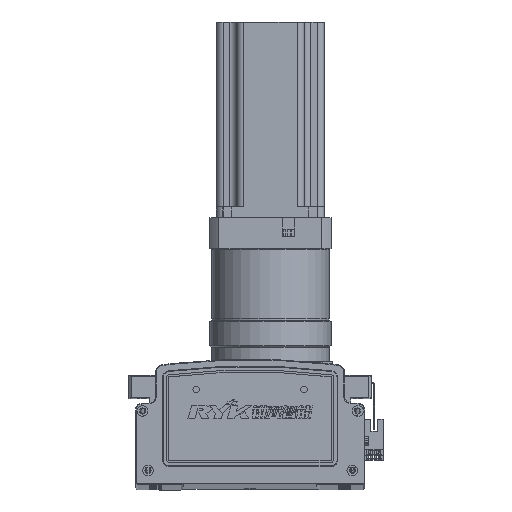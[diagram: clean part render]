
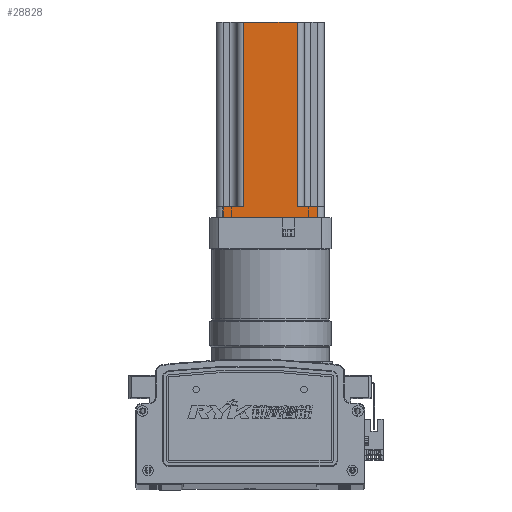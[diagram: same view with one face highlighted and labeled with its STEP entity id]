
A CAD part, top view. The second image highlights one B-rep face of the part: STEP entity #28828.
In plain terms, the highlighted planar face has unit normal (0, 0, 1) as drawn and (0, -1, 0) by its records, which use the part's own axes.
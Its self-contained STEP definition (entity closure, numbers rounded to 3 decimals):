
#3414 = DIRECTION ( 'NONE',  ( 1., 0., 0. ) ) ;
#3425 = CARTESIAN_POINT ( 'NONE',  ( -7.587, -40.37, 8. ) ) ;
#3446 = CARTESIAN_POINT ( 'NONE',  ( -87.587, -40.37, 0. ) ) ;
#3459 = DIRECTION ( 'NONE',  ( 1., 0., 0. ) ) ;
#3526 = DIRECTION ( 'NONE',  ( 0., 0., 1. ) ) ;
#3559 = CARTESIAN_POINT ( 'NONE',  ( -12.587, -40.37, 145. ) ) ;
#4974 = EDGE_LOOP ( 'NONE', ( #88431, #88511, #88425, #88417, #88411, #88661, #88505, #88455 ) ) ;
#10021 = VECTOR ( 'NONE', #12899, 1000. ) ;
#10038 = LINE ( 'NONE', #12898, #10021 ) ;
#10084 = LINE ( 'NONE', #12905, #10121 ) ;
#10092 = LINE ( 'NONE', #12934, #10099 ) ;
#10096 = VECTOR ( 'NONE', #12890, 1000. ) ;
#10099 = VECTOR ( 'NONE', #12941, 1000. ) ;
#10108 = VECTOR ( 'NONE', #12870, 1000. ) ;
#10110 = LINE ( 'NONE', #12880, #10108 ) ;
#10117 = LINE ( 'NONE', #12872, #10096 ) ;
#10121 = VECTOR ( 'NONE', #12877, 1000. ) ;
#10173 = LINE ( 'NONE', #3425, #10188 ) ;
#10188 = VECTOR ( 'NONE', #3414, 1000. ) ;
#10221 = VECTOR ( 'NONE', #3526, 1000. ) ;
#10224 = LINE ( 'NONE', #3559, #10221 ) ;
#10255 = LINE ( 'NONE', #3446, #10258 ) ;
#10258 = VECTOR ( 'NONE', #3459, 1000. ) ;
#12870 = DIRECTION ( 'NONE',  ( 0., 0., 1. ) ) ;
#12872 = CARTESIAN_POINT ( 'NONE',  ( -67.587, -40.37, 145. ) ) ;
#12877 = DIRECTION ( 'NONE',  ( 1., 0., 0. ) ) ;
#12880 = CARTESIAN_POINT ( 'NONE',  ( -27.587, -40.37, 145. ) ) ;
#12890 = DIRECTION ( 'NONE',  ( 0., 0., -1. ) ) ;
#12898 = CARTESIAN_POINT ( 'NONE',  ( -87.587, -40.37, 145. ) ) ;
#12899 = DIRECTION ( 'NONE',  ( 1., 0., 0. ) ) ;
#12905 = CARTESIAN_POINT ( 'NONE',  ( -87.587, -40.37, 8. ) ) ;
#12934 = CARTESIAN_POINT ( 'NONE',  ( -82.587, -40.37, 145. ) ) ;
#12941 = DIRECTION ( 'NONE',  ( 0., 0., -1. ) ) ;
#19905 = FACE_OUTER_BOUND ( 'NONE', #4974, .T. ) ;
#28828 = ADVANCED_FACE ( 'NONE', ( #19905 ), #35161, .F. ) ;
#35149 = CARTESIAN_POINT ( 'NONE',  ( -87.587, -40.37, 145. ) ) ;
#35152 = DIRECTION ( 'NONE',  ( -1., 0., 0. ) ) ;
#35161 = PLANE ( 'NONE',  #93319 ) ;
#35185 = DIRECTION ( 'NONE',  ( 0., 1., 0. ) ) ;
#37993 = CARTESIAN_POINT ( 'NONE',  ( -82.587, -40.37, 0. ) ) ;
#38163 = CARTESIAN_POINT ( 'NONE',  ( -27.587, -40.37, 8. ) ) ;
#38165 = CARTESIAN_POINT ( 'NONE',  ( -27.587, -40.37, 145. ) ) ;
#38177 = CARTESIAN_POINT ( 'NONE',  ( -12.587, -40.37, 8. ) ) ;
#38200 = CARTESIAN_POINT ( 'NONE',  ( -12.587, -40.37, 0. ) ) ;
#38208 = CARTESIAN_POINT ( 'NONE',  ( -67.587, -40.37, 145. ) ) ;
#38219 = CARTESIAN_POINT ( 'NONE',  ( -67.587, -40.37, 8. ) ) ;
#38253 = CARTESIAN_POINT ( 'NONE',  ( -82.587, -40.37, 8. ) ) ;
#61442 = VERTEX_POINT ( 'NONE', #37993 ) ;
#61562 = VERTEX_POINT ( 'NONE', #38163 ) ;
#61573 = VERTEX_POINT ( 'NONE', #38165 ) ;
#61584 = VERTEX_POINT ( 'NONE', #38177 ) ;
#61649 = VERTEX_POINT ( 'NONE', #38200 ) ;
#61726 = VERTEX_POINT ( 'NONE', #38208 ) ;
#61730 = VERTEX_POINT ( 'NONE', #38253 ) ;
#61734 = VERTEX_POINT ( 'NONE', #38219 ) ;
#73135 = EDGE_CURVE ( 'NONE', #61726, #61573, #10038, .T. ) ;
#73141 = EDGE_CURVE ( 'NONE', #61730, #61734, #10084, .T. ) ;
#73152 = EDGE_CURVE ( 'NONE', #61562, #61573, #10110, .T. ) ;
#73156 = EDGE_CURVE ( 'NONE', #61726, #61734, #10117, .T. ) ;
#73184 = EDGE_CURVE ( 'NONE', #61730, #61442, #10092, .T. ) ;
#73250 = EDGE_CURVE ( 'NONE', #61562, #61584, #10173, .T. ) ;
#73299 = EDGE_CURVE ( 'NONE', #61442, #61649, #10255, .T. ) ;
#73346 = EDGE_CURVE ( 'NONE', #61649, #61584, #10224, .T. ) ;
#88411 = ORIENTED_EDGE ( 'NONE', *, *, #73250, .F. ) ;
#88417 = ORIENTED_EDGE ( 'NONE', *, *, #73346, .T. ) ;
#88425 = ORIENTED_EDGE ( 'NONE', *, *, #73299, .T. ) ;
#88431 = ORIENTED_EDGE ( 'NONE', *, *, #73141, .F. ) ;
#88455 = ORIENTED_EDGE ( 'NONE', *, *, #73156, .T. ) ;
#88505 = ORIENTED_EDGE ( 'NONE', *, *, #73135, .F. ) ;
#88511 = ORIENTED_EDGE ( 'NONE', *, *, #73184, .T. ) ;
#88661 = ORIENTED_EDGE ( 'NONE', *, *, #73152, .T. ) ;
#93319 = AXIS2_PLACEMENT_3D ( 'NONE', #35149, #35185, #35152 ) ;
